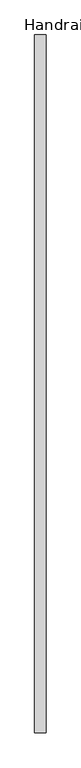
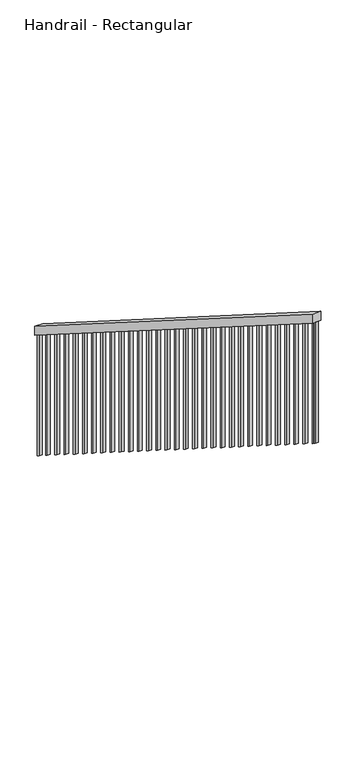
"""IFC4 building model written with IfcOpenShell, lengths in millimetres: railing geometry, Handrail - Rectangular."""

from ifc_helpers import new_model, si_unit, frame, origin, place, context, project, spatial, polyline, outline, extrude, source, transform, mapped, element, save


def handrail_rectangular_07e79f27(model_context):
    return source(origin(), model_context, "Body", "SweptSolid", [
        extrude(outline(polyline([(29625.2325698, 737.4193548), (29625.2325698, 677.2854912), (26551.8305304, 2624.0725879), (26551.8305304, 2684.2064516), (29625.2325698, 737.4193548)])), frame((-9931.4851755, 0.0, 0.0), z_axis=(1.0, 0.0, 0.0), x_axis=(0.0, 1.0, 0.0)), (0.0, 0.0, 1.0), 50.8),
        extrude(outline(polyline([(26567.7075698, 2614.0155843), (26586.7575698, 2601.9487301), (26586.7575698, 1785.4263775), (26567.7075698, 1797.4932316), (26567.7075698, 2614.0155843)])), frame((-9915.6101755, 0.0, 0.0), z_axis=(1.0, 0.0, 0.0), x_axis=(0.0, 1.0, 0.0)), (0.0, 0.0, 1.0), 19.05),
        extrude(outline(polyline([(26669.3075698, 2549.6590287), (26688.3575698, 2537.5921746), (26688.3575698, 1721.0698219), (26669.3075698, 1733.1366761), (26669.3075698, 2549.6590287)])), frame((-9915.6101755, 0.0, 0.0), z_axis=(1.0, 0.0, 0.0), x_axis=(0.0, 1.0, 0.0)), (0.0, 0.0, 1.0), 19.05),
        extrude(outline(polyline([(26770.9075698, 2485.3024732), (26789.9575698, 2473.2356191), (26789.9575698, 1656.7132664), (26770.9075698, 1668.7801206), (26770.9075698, 2485.3024732)])), frame((-9915.6101755, 0.0, 0.0), z_axis=(1.0, 0.0, 0.0), x_axis=(0.0, 1.0, 0.0)), (0.0, 0.0, 1.0), 19.05),
        extrude(outline(polyline([(26872.5075698, 2420.9459177), (26891.5575698, 2408.8790635), (26891.5575698, 1592.3567109), (26872.5075698, 1604.423565), (26872.5075698, 2420.9459177)])), frame((-9915.6101755, 0.0, 0.0), z_axis=(1.0, 0.0, 0.0), x_axis=(0.0, 1.0, 0.0)), (0.0, 0.0, 1.0), 19.05),
        extrude(outline(polyline([(26974.1075698, 2356.5893621), (26993.1575698, 2344.522508), (26993.1575698, 1528.0001553), (26974.1075698, 1540.0670095), (26974.1075698, 2356.5893621)])), frame((-9915.6101755, 0.0, 0.0), z_axis=(1.0, 0.0, 0.0), x_axis=(0.0, 1.0, 0.0)), (0.0, 0.0, 1.0), 19.05),
        extrude(outline(polyline([(27075.7075698, 2292.2328066), (27094.7575698, 2280.1659524), (27094.7575698, 1463.6435998), (27075.7075698, 1475.710454), (27075.7075698, 2292.2328066)])), frame((-9915.6101755, 0.0, 0.0), z_axis=(1.0, 0.0, 0.0), x_axis=(0.0, 1.0, 0.0)), (0.0, 0.0, 1.0), 19.05),
        extrude(outline(polyline([(27177.3075698, 2227.8762511), (27196.3575698, 2215.8093969), (27196.3575698, 1399.2870443), (27177.3075698, 1411.3538984), (27177.3075698, 2227.8762511)])), frame((-9915.6101755, 0.0, 0.0), z_axis=(1.0, 0.0, 0.0), x_axis=(0.0, 1.0, 0.0)), (0.0, 0.0, 1.0), 19.05),
        extrude(outline(polyline([(27278.9075698, 2163.5196955), (27297.9575698, 2151.4528414), (27297.9575698, 1334.9304887), (27278.9075698, 1346.9973429), (27278.9075698, 2163.5196955)])), frame((-9915.6101755, 0.0, 0.0), z_axis=(1.0, 0.0, 0.0), x_axis=(0.0, 1.0, 0.0)), (0.0, 0.0, 1.0), 19.05),
        extrude(outline(polyline([(27380.5075698, 2099.16314), (27399.5575698, 2087.0962858), (27399.5575698, 1270.5739332), (27380.5075698, 1282.6407874), (27380.5075698, 2099.16314)])), frame((-9915.6101755, 0.0, 0.0), z_axis=(1.0, 0.0, 0.0), x_axis=(0.0, 1.0, 0.0)), (0.0, 0.0, 1.0), 19.05),
        extrude(outline(polyline([(27482.1075698, 2034.8065845), (27501.1575698, 2022.7397303), (27501.1575698, 1206.2173777), (27482.1075698, 1218.2842318), (27482.1075698, 2034.8065845)])), frame((-9915.6101755, 0.0, 0.0), z_axis=(1.0, 0.0, 0.0), x_axis=(0.0, 1.0, 0.0)), (0.0, 0.0, 1.0), 19.05),
        extrude(outline(polyline([(27583.7075698, 1970.4500289), (27602.7575698, 1958.3831748), (27602.7575698, 1141.8608221), (27583.7075698, 1153.9276763), (27583.7075698, 1970.4500289)])), frame((-9915.6101755, 0.0, 0.0), z_axis=(1.0, 0.0, 0.0), x_axis=(0.0, 1.0, 0.0)), (0.0, 0.0, 1.0), 19.05),
        extrude(outline(polyline([(27685.3075698, 1906.0934734), (27704.3575698, 1894.0266192), (27704.3575698, 1077.5042666), (27685.3075698, 1089.5711207), (27685.3075698, 1906.0934734)])), frame((-9915.6101755, 0.0, 0.0), z_axis=(1.0, 0.0, 0.0), x_axis=(0.0, 1.0, 0.0)), (0.0, 0.0, 1.0), 19.05),
        extrude(outline(polyline([(27786.9075698, 1841.7369179), (27805.9575698, 1829.6700637), (27805.9575698, 1013.1477111), (27786.9075698, 1025.2145652), (27786.9075698, 1841.7369179)])), frame((-9915.6101755, 0.0, 0.0), z_axis=(1.0, 0.0, 0.0), x_axis=(0.0, 1.0, 0.0)), (0.0, 0.0, 1.0), 19.05),
        extrude(outline(polyline([(27888.5075698, 1777.3803623), (27907.5575698, 1765.3135082), (27907.5575698, 948.7911555), (27888.5075698, 960.8580097), (27888.5075698, 1777.3803623)])), frame((-9915.6101755, 0.0, 0.0), z_axis=(1.0, 0.0, 0.0), x_axis=(0.0, 1.0, 0.0)), (0.0, 0.0, 1.0), 19.05),
        extrude(outline(polyline([(27990.1075698, 1713.0238068), (28009.1575698, 1700.9569526), (28009.1575698, 884.4346), (27990.1075698, 896.5014541), (27990.1075698, 1713.0238068)])), frame((-9915.6101755, 0.0, 0.0), z_axis=(1.0, 0.0, 0.0), x_axis=(0.0, 1.0, 0.0)), (0.0, 0.0, 1.0), 19.05),
        extrude(outline(polyline([(28091.7075698, 1648.6672513), (28110.7575698, 1636.6003971), (28110.7575698, 820.0780444), (28091.7075698, 832.1448986), (28091.7075698, 1648.6672513)])), frame((-9915.6101755, 0.0, 0.0), z_axis=(1.0, 0.0, 0.0), x_axis=(0.0, 1.0, 0.0)), (0.0, 0.0, 1.0), 19.05),
        extrude(outline(polyline([(28193.3075698, 1584.3106957), (28212.3575698, 1572.2438416), (28212.3575698, 755.7214889), (28193.3075698, 767.7883431), (28193.3075698, 1584.3106957)])), frame((-9915.6101755, 0.0, 0.0), z_axis=(1.0, 0.0, 0.0), x_axis=(0.0, 1.0, 0.0)), (0.0, 0.0, 1.0), 19.05),
        extrude(outline(polyline([(28294.9075698, 1519.9541402), (28313.9575698, 1507.887286), (28313.9575698, 691.3649334), (28294.9075698, 703.4317875), (28294.9075698, 1519.9541402)])), frame((-9915.6101755, 0.0, 0.0), z_axis=(1.0, 0.0, 0.0), x_axis=(0.0, 1.0, 0.0)), (0.0, 0.0, 1.0), 19.05),
        extrude(outline(polyline([(28396.5075698, 1455.5975847), (28415.5575698, 1443.5307305), (28415.5575698, 627.0083778), (28396.5075698, 639.075232), (28396.5075698, 1455.5975847)])), frame((-9915.6101755, 0.0, 0.0), z_axis=(1.0, 0.0, 0.0), x_axis=(0.0, 1.0, 0.0)), (0.0, 0.0, 1.0), 19.05),
        extrude(outline(polyline([(28498.1075698, 1391.2410291), (28517.1575698, 1379.174175), (28517.1575698, 562.6518223), (28498.1075698, 574.7186765), (28498.1075698, 1391.2410291)])), frame((-9915.6101755, 0.0, 0.0), z_axis=(1.0, 0.0, 0.0), x_axis=(0.0, 1.0, 0.0)), (0.0, 0.0, 1.0), 19.05),
        extrude(outline(polyline([(28599.7075698, 1326.8844736), (28618.7575698, 1314.8176194), (28618.7575698, 498.2952668), (28599.7075698, 510.3621209), (28599.7075698, 1326.8844736)])), frame((-9915.6101755, 0.0, 0.0), z_axis=(1.0, 0.0, 0.0), x_axis=(0.0, 1.0, 0.0)), (0.0, 0.0, 1.0), 19.05),
        extrude(outline(polyline([(28701.3075698, 1262.5279181), (28720.3575698, 1250.4610639), (28720.3575698, 433.9387112), (28701.3075698, 446.0055654), (28701.3075698, 1262.5279181)])), frame((-9915.6101755, 0.0, 0.0), z_axis=(1.0, 0.0, 0.0), x_axis=(0.0, 1.0, 0.0)), (0.0, 0.0, 1.0), 19.05),
        extrude(outline(polyline([(28802.9075698, 1198.1713625), (28821.9575698, 1186.1045084), (28821.9575698, 369.5821557), (28802.9075698, 381.6490099), (28802.9075698, 1198.1713625)])), frame((-9915.6101755, 0.0, 0.0), z_axis=(1.0, 0.0, 0.0), x_axis=(0.0, 1.0, 0.0)), (0.0, 0.0, 1.0), 19.05),
        extrude(outline(polyline([(28904.5075698, 1133.814807), (28923.5575698, 1121.7479528), (28923.5575698, 305.2256002), (28904.5075698, 317.2924543), (28904.5075698, 1133.814807)])), frame((-9915.6101755, 0.0, 0.0), z_axis=(1.0, 0.0, 0.0), x_axis=(0.0, 1.0, 0.0)), (0.0, 0.0, 1.0), 19.05),
        extrude(outline(polyline([(29006.1075698, 1069.4582515), (29025.1575698, 1057.3913973), (29025.1575698, 240.8690446), (29006.1075698, 252.9358988), (29006.1075698, 1069.4582515)])), frame((-9915.6101755, 0.0, 0.0), z_axis=(1.0, 0.0, 0.0), x_axis=(0.0, 1.0, 0.0)), (0.0, 0.0, 1.0), 19.05),
        extrude(outline(polyline([(29107.7075698, 1005.1016959), (29126.7575698, 993.0348418), (29126.7575698, 176.5124891), (29107.7075698, 188.5793433), (29107.7075698, 1005.1016959)])), frame((-9915.6101755, 0.0, 0.0), z_axis=(1.0, 0.0, 0.0), x_axis=(0.0, 1.0, 0.0)), (0.0, 0.0, 1.0), 19.05),
        extrude(outline(polyline([(29209.3075698, 940.7451404), (29228.3575698, 928.6782862), (29228.3575698, 112.1559336), (29209.3075698, 124.2227877), (29209.3075698, 940.7451404)])), frame((-9915.6101755, 0.0, 0.0), z_axis=(1.0, 0.0, 0.0), x_axis=(0.0, 1.0, 0.0)), (0.0, 0.0, 1.0), 19.05),
        extrude(outline(polyline([(29310.9075698, 876.3885849), (29329.9575698, 864.3217307), (29329.9575698, 47.799378), (29310.9075698, 59.8662322), (29310.9075698, 876.3885849)])), frame((-9915.6101755, 0.0, 0.0), z_axis=(1.0, 0.0, 0.0), x_axis=(0.0, 1.0, 0.0)), (0.0, 0.0, 1.0), 19.05),
        extrude(outline(polyline([(29412.5075698, 812.0320293), (29431.5575698, 799.9651752), (29431.5575698, -16.5571775), (29412.5075698, -4.4903233), (29412.5075698, 812.0320293)])), frame((-9915.6101755, 0.0, 0.0), z_axis=(1.0, 0.0, 0.0), x_axis=(0.0, 1.0, 0.0)), (0.0, 0.0, 1.0), 19.05),
        extrude(outline(polyline([(29514.1075698, 747.6754738), (29533.1575698, 735.6086196), (29533.1575698, -80.913733), (29514.1075698, -68.8468789), (29514.1075698, 747.6754738)])), frame((-9915.6101755, 0.0, 0.0), z_axis=(1.0, 0.0, 0.0), x_axis=(0.0, 1.0, 0.0)), (0.0, 0.0, 1.0), 19.05),
        extrude(outline(polyline([(26551.8305304, 2624.0725879), (26570.8805304, 2612.0057338), (26570.8805304, 1795.4833811), (26551.8305304, 1807.5502353), (26551.8305304, 2624.0725879)])), frame((-9915.6101755, 0.0, 0.0), z_axis=(1.0, 0.0, 0.0), x_axis=(0.0, 1.0, 0.0)), (0.0, 0.0, 1.0), 19.05),
        extrude(outline(polyline([(29606.1825698, 689.3523453), (29625.2325698, 677.2854912), (29625.2325698, -139.2368615), (29606.1825698, -127.1700073), (29606.1825698, 689.3523453)])), frame((-9915.6101755, 0.0, 0.0), z_axis=(1.0, 0.0, 0.0), x_axis=(0.0, 1.0, 0.0)), (0.0, 0.0, 1.0), 19.05),
    ])


if __name__ == "__main__":
    model = new_model("IFC4")
    model_context = context("Model", 3, world=origin())
    ifc_project = project(units=[si_unit("LENGTHUNIT", "METRE", prefix="MILLI")], contexts=[model_context])
    site = spatial("IfcSite", under=ifc_project)
    building = spatial("IfcBuilding", under=site)
    placement = place(None, origin())
    handrail_rectangular_shape = handrail_rectangular_07e79f27(model_context)
    element("IfcRailing", 1, ObjectType="Handrail - Rectangular", at=placement, inside=building, context=model_context, shape_type="MappedRepresentation", body=[
        mapped(handrail_rectangular_shape, transform((0.0, 0.0, 0.0), x_axis=(1.0, 0.0, 0.0), y_axis=(0.0, 1.0, 0.0), z_axis=(0.0, 0.0, 1.0))),
    ])
    save(model, "model.ifc")
